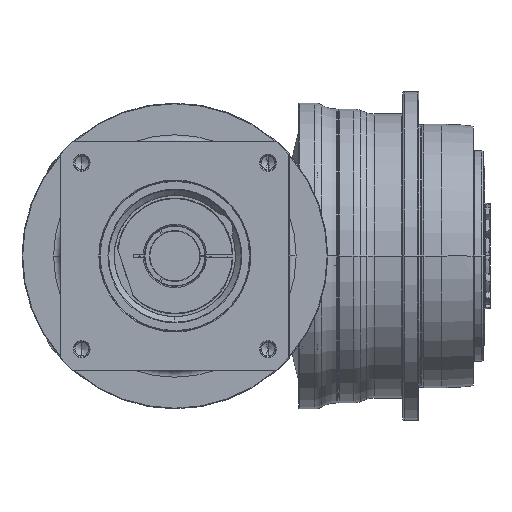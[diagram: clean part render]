
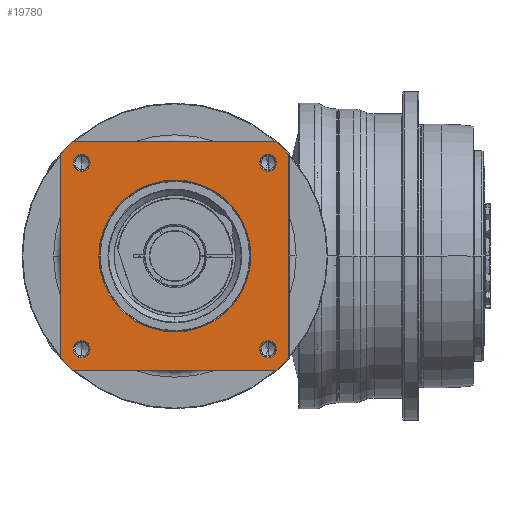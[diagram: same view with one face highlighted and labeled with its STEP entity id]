
A CAD part, front view. The second image highlights one B-rep face of the part: STEP entity #19780.
In plain terms, the highlighted planar face has unit normal (0, -1, 0) as drawn and (0, 0, 1) by its records, which use the part's own axes.
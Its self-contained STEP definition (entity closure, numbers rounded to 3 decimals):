
#18531=CARTESIAN_POINT('',(0.,0.,
76.));
#18532=DIRECTION('',(0.,0.,-1.));
#18533=DIRECTION('',(0.,-1.,0.));
#18534=AXIS2_PLACEMENT_3D('',#18531,#18532,#18533);
#18536=CARTESIAN_POINT('',(0.,0.,
76.));
#18537=DIRECTION('',(0.,0.,-1.));
#18538=DIRECTION('',(0.,1.,0.));
#18539=AXIS2_PLACEMENT_3D('',#18536,#18537,#18538);
#18541=CARTESIAN_POINT('',(0.,0.,76.));
#18542=DIRECTION('',(0.,0.,1.));
#18543=DIRECTION('',(-0.746,-0.666,0.));
#18544=AXIS2_PLACEMENT_3D('',#18541,#18542,#18543);
#18556=DIRECTION('',(1.,0.,0.));
#18557=VECTOR('',#18556,154.58);
#18558=CARTESIAN_POINT('',(-77.29,-86.5,76.));
#18559=LINE('',#18558,#18557);
#18569=CARTESIAN_POINT('',(0.,0.,76.));
#18570=DIRECTION('',(0.,0.,1.));
#18571=DIRECTION('',(0.666,-0.746,0.));
#18572=AXIS2_PLACEMENT_3D('',#18569,#18570,#18571);
#18584=DIRECTION('',(0.,1.,0.));
#18585=VECTOR('',#18584,154.58);
#18586=CARTESIAN_POINT('',(86.5,-77.29,76.));
#18587=LINE('',#18586,#18585);
#18597=CARTESIAN_POINT('',(0.,0.,76.));
#18598=DIRECTION('',(0.,0.,1.));
#18599=DIRECTION('',(0.746,0.666,0.));
#18600=AXIS2_PLACEMENT_3D('',#18597,#18598,#18599);
#18612=DIRECTION('',(-1.,0.,0.));
#18613=VECTOR('',#18612,154.58);
#18614=CARTESIAN_POINT('',(77.29,86.5,76.));
#18615=LINE('',#18614,#18613);
#18620=CARTESIAN_POINT('',(0.,0.,76.));
#18621=DIRECTION('',(0.,0.,1.));
#18622=DIRECTION('',(-0.666,0.746,0.));
#18623=AXIS2_PLACEMENT_3D('',#18620,#18621,#18622);
#18640=DIRECTION('',(0.,-1.,0.));
#18641=VECTOR('',#18640,154.58);
#18642=CARTESIAN_POINT('',(-86.5,77.29,76.));
#18643=LINE('',#18642,#18641);
#18726=CARTESIAN_POINT('',(-70.711,70.711,76.));
#18727=DIRECTION('',(0.,0.,1.));
#18728=DIRECTION('',(-1.,0.,0.));
#18729=AXIS2_PLACEMENT_3D('',#18726,#18727,#18728);
#18744=CARTESIAN_POINT('',(-70.711,70.711,76.));
#18745=DIRECTION('',(0.,0.,1.));
#18746=DIRECTION('',(1.,0.,0.));
#18747=AXIS2_PLACEMENT_3D('',#18744,#18745,#18746);
#18780=CARTESIAN_POINT('',(70.711,70.711,76.));
#18781=DIRECTION('',(0.,0.,1.));
#18782=DIRECTION('',(-1.,0.,0.));
#18783=AXIS2_PLACEMENT_3D('',#18780,#18781,#18782);
#18798=CARTESIAN_POINT('',(70.711,70.711,76.));
#18799=DIRECTION('',(0.,0.,1.));
#18800=DIRECTION('',(1.,0.,0.));
#18801=AXIS2_PLACEMENT_3D('',#18798,#18799,#18800);
#18834=CARTESIAN_POINT('',(70.711,-70.711,76.));
#18835=DIRECTION('',(0.,0.,1.));
#18836=DIRECTION('',(-1.,0.,0.));
#18837=AXIS2_PLACEMENT_3D('',#18834,#18835,#18836);
#18852=CARTESIAN_POINT('',(70.711,-70.711,76.));
#18853=DIRECTION('',(0.,0.,1.));
#18854=DIRECTION('',(1.,0.,0.));
#18855=AXIS2_PLACEMENT_3D('',#18852,#18853,#18854);
#18888=CARTESIAN_POINT('',(-70.711,-70.711,76.));
#18889=DIRECTION('',(0.,0.,1.));
#18890=DIRECTION('',(-1.,0.,0.));
#18891=AXIS2_PLACEMENT_3D('',#18888,#18889,#18890);
#18906=CARTESIAN_POINT('',(-70.711,-70.711,76.));
#18907=DIRECTION('',(0.,0.,1.));
#18908=DIRECTION('',(1.,0.,0.));
#18909=AXIS2_PLACEMENT_3D('',#18906,#18907,#18908);
#19038=CARTESIAN_POINT('',(86.5,-77.29,76.));
#19039=CARTESIAN_POINT('',(86.5,77.29,76.));
#19040=VERTEX_POINT('',#19038);
#19041=VERTEX_POINT('',#19039);
#19046=CARTESIAN_POINT('',(77.29,-86.5,76.));
#19047=VERTEX_POINT('',#19046);
#19050=CARTESIAN_POINT('',(-77.29,-86.5,76.));
#19051=VERTEX_POINT('',#19050);
#19054=CARTESIAN_POINT('',(-86.5,-77.29,76.));
#19055=VERTEX_POINT('',#19054);
#19058=CARTESIAN_POINT('',(-86.5,77.29,76.));
#19059=VERTEX_POINT('',#19058);
#19062=CARTESIAN_POINT('',(-77.29,86.5,76.));
#19063=VERTEX_POINT('',#19062);
#19066=CARTESIAN_POINT('',(77.29,86.5,76.));
#19067=VERTEX_POINT('',#19066);
#19076=CARTESIAN_POINT('',(-77.111,70.711,76.));
#19077=CARTESIAN_POINT('',(-64.311,70.711,76.));
#19078=VERTEX_POINT('',#19076);
#19079=VERTEX_POINT('',#19077);
#19102=CARTESIAN_POINT('',(77.111,70.711,76.));
#19103=CARTESIAN_POINT('',(64.311,70.711,76.));
#19104=VERTEX_POINT('',#19102);
#19105=VERTEX_POINT('',#19103);
#19110=CARTESIAN_POINT('',(77.111,-70.711,76.));
#19111=CARTESIAN_POINT('',(64.311,-70.711,76.));
#19112=VERTEX_POINT('',#19110);
#19113=VERTEX_POINT('',#19111);
#19118=CARTESIAN_POINT('',(-64.311,-70.711,76.));
#19119=CARTESIAN_POINT('',(-77.111,-70.711,76.));
#19120=VERTEX_POINT('',#19118);
#19121=VERTEX_POINT('',#19119);
#19126=CARTESIAN_POINT('',(0.,-57.65,76.));
#19127=CARTESIAN_POINT('',(0.,57.65,
76.));
#19128=VERTEX_POINT('',#19126);
#19129=VERTEX_POINT('',#19127);
#19728=CARTESIAN_POINT('',(0.,0.,76.));
#19729=DIRECTION('',(0.,0.,1.));
#19730=DIRECTION('',(1.,0.,0.));
#19731=AXIS2_PLACEMENT_3D('',#19728,#19729,#19730);
#19732=PLANE('',#19731);
#19734=ORIENTED_EDGE('',*,*,#19733,.F.);
#19736=ORIENTED_EDGE('',*,*,#19735,.F.);
#19738=ORIENTED_EDGE('',*,*,#19737,.F.);
#19740=ORIENTED_EDGE('',*,*,#19739,.F.);
#19742=ORIENTED_EDGE('',*,*,#19741,.F.);
#19744=ORIENTED_EDGE('',*,*,#19743,.F.);
#19746=ORIENTED_EDGE('',*,*,#19745,.F.);
#19748=ORIENTED_EDGE('',*,*,#19747,.F.);
#19749=EDGE_LOOP('',(#19734,#19736,#19738,#19740,#19742,#19744,#19746,#19748));
#19750=FACE_OUTER_BOUND('',#19749,.F.);
#19751=ORIENTED_EDGE('',*,*,#19718,.F.);
#19753=ORIENTED_EDGE('',*,*,#19752,.F.);
#19754=EDGE_LOOP('',(#19751,#19753));
#19755=FACE_BOUND('',#19754,.F.);
#19757=ORIENTED_EDGE('',*,*,#19756,.T.);
#19759=ORIENTED_EDGE('',*,*,#19758,.T.);
#19760=EDGE_LOOP('',(#19757,#19759));
#19761=FACE_BOUND('',#19760,.F.);
#19763=ORIENTED_EDGE('',*,*,#19762,.T.);
#19765=ORIENTED_EDGE('',*,*,#19764,.T.);
#19766=EDGE_LOOP('',(#19763,#19765));
#19767=FACE_BOUND('',#19766,.F.);
#19769=ORIENTED_EDGE('',*,*,#19768,.T.);
#19771=ORIENTED_EDGE('',*,*,#19770,.T.);
#19772=EDGE_LOOP('',(#19769,#19771));
#19773=FACE_BOUND('',#19772,.F.);
#19775=ORIENTED_EDGE('',*,*,#19774,.T.);
#19777=ORIENTED_EDGE('',*,*,#19776,.T.);
#19778=EDGE_LOOP('',(#19775,#19777));
#19779=FACE_BOUND('',#19778,.F.);
#19780=ADVANCED_FACE('',(#19750,#19755,#19761,#19767,#19773,#19779),#19732,.T.);
#18535=CIRCLE('',#18534,57.65);
#18540=CIRCLE('',#18539,57.65);
#18545=CIRCLE('',#18544,116.);
#18573=CIRCLE('',#18572,116.);
#18601=CIRCLE('',#18600,116.);
#18624=CIRCLE('',#18623,116.);
#18730=CIRCLE('',#18729,6.4);
#18748=CIRCLE('',#18747,6.4);
#18784=CIRCLE('',#18783,6.4);
#18802=CIRCLE('',#18801,6.4);
#18838=CIRCLE('',#18837,6.4);
#18856=CIRCLE('',#18855,6.4);
#18892=CIRCLE('',#18891,6.4);
#18910=CIRCLE('',#18909,6.4);
#19718=EDGE_CURVE('',#19128,#19129,#18535,.T.);
#19733=EDGE_CURVE('',#19055,#19051,#18545,.T.);
#19735=EDGE_CURVE('',#19059,#19055,#18643,.T.);
#19737=EDGE_CURVE('',#19063,#19059,#18624,.T.);
#19739=EDGE_CURVE('',#19067,#19063,#18615,.T.);
#19741=EDGE_CURVE('',#19041,#19067,#18601,.T.);
#19743=EDGE_CURVE('',#19040,#19041,#18587,.T.);
#19745=EDGE_CURVE('',#19047,#19040,#18573,.T.);
#19747=EDGE_CURVE('',#19051,#19047,#18559,.T.);
#19752=EDGE_CURVE('',#19129,#19128,#18540,.T.);
#19756=EDGE_CURVE('',#19078,#19079,#18730,.T.);
#19758=EDGE_CURVE('',#19079,#19078,#18748,.T.);
#19762=EDGE_CURVE('',#19105,#19104,#18784,.T.);
#19764=EDGE_CURVE('',#19104,#19105,#18802,.T.);
#19768=EDGE_CURVE('',#19113,#19112,#18838,.T.);
#19770=EDGE_CURVE('',#19112,#19113,#18856,.T.);
#19774=EDGE_CURVE('',#19121,#19120,#18892,.T.);
#19776=EDGE_CURVE('',#19120,#19121,#18910,.T.);
